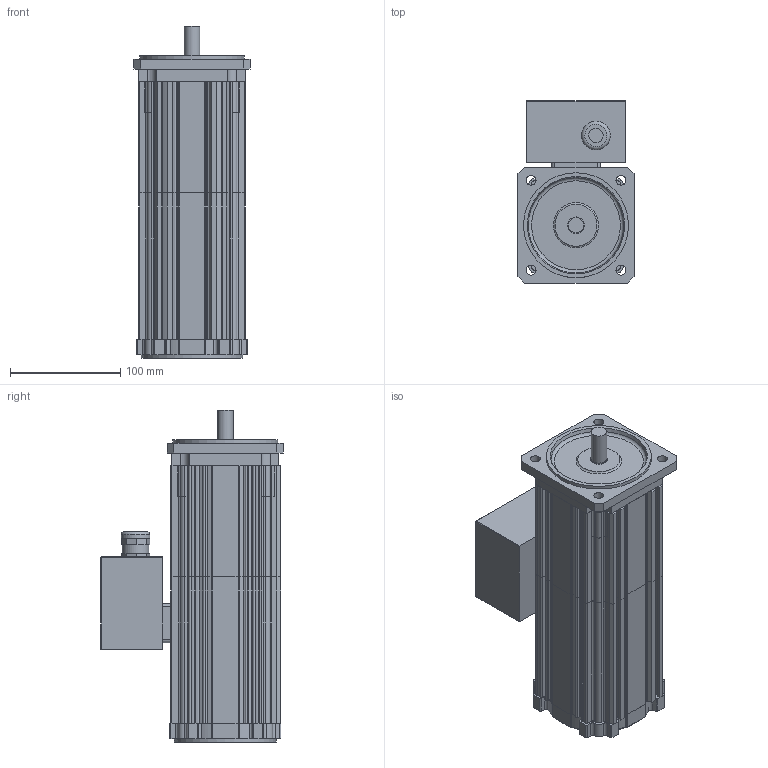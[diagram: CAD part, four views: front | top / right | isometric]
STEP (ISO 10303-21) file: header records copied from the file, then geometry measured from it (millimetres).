
FILE_DESCRIPTION(/* description */ (''),/* implementation_level */ '2;1');
FILE_NAME(/* name */ 'KSA449_MC',/* time_stamp */ '2009-02-26T13:58:06+01:00',/* author */ (''),/* organization */ (''),/* preprocessor_version */ 'ST-DEVELOPER v8',/* originating_system */ 'UNIGRAPHICS SOLUTIONS - UNIGRAPHICS 18.0',/* authorisation */ '');
FILE_SCHEMA (('AUTOMOTIVE_DESIGN { 1 2 10303 214 0 1 1 1 }'));
Length unit declared in the file: millimetre
Products named in the file (6): 0280391350_0; Lagersch4AS_0; Lagersch4BS_0; 089105X_0; Klemmenkasten_0; KSA444_MC_0
Assembly tree (5 placements, depth 3):
  KSA444_MC_0
    089105X_0
    Lagersch4BS_0
    Klemmenkasten_0
      0280391350_0
    Lagersch4AS_0
Bounding box: 105 x 165.35 x 300.5 mm (x, y, z)
Volume: 1430429.2 mm3; surface area: 378514.9 mm2
Topology: 6 solids, 6 shells, 582 faces, 1644 edges, 1085 vertices
Faces by surface type: cylinder 279, plane 269, torus 12, cone 10, bspline 8, sphere 4
Full cylindrical faces by diameter (mm): 9 x4, 13 x1, 14 x1, 15 x1, 18 x1, 20 x1, 24 x1, 26 x1, 89.6 x2, 91 x1, 95 x1
Entity records: 19170 total; most frequent: CARTESIAN_POINT 3612, DIRECTION 3320, ORIENTED_EDGE 3210, EDGE_CURVE 1605, AXIS2_PLACEMENT_3D 1191, VERTEX_POINT 1075, LINE 938, VECTOR 938
